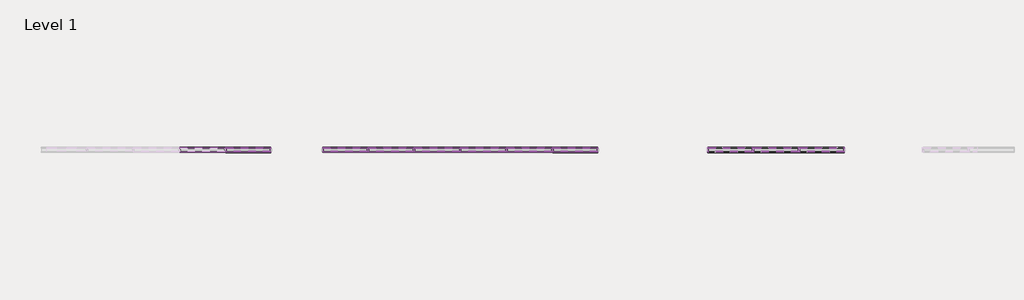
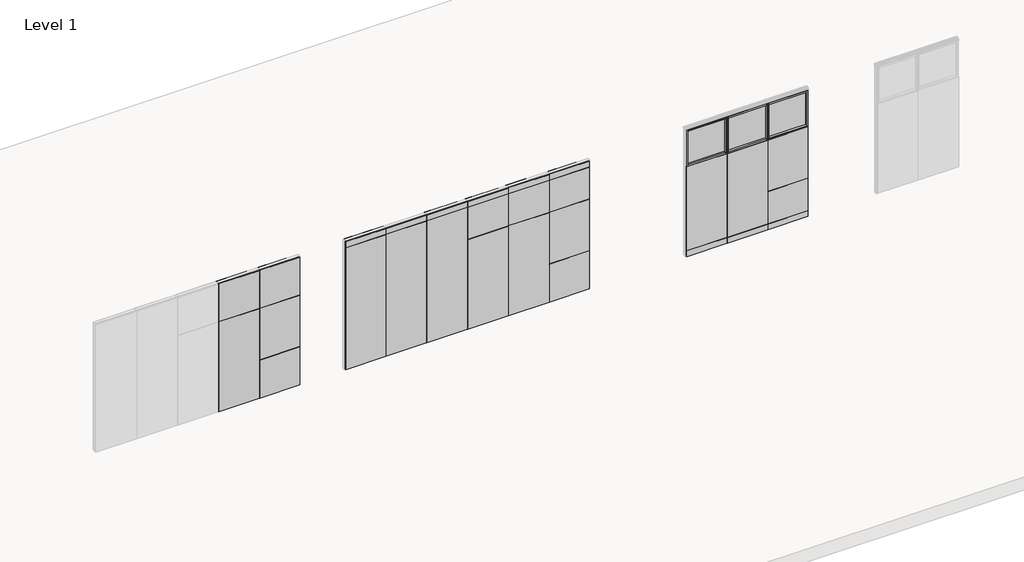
# One storey, part 16 of 22: 101 proxies.
"""IFC4 building model written with IfcOpenShell, lengths in millimetres."""

from ifc_helpers import new_model, si_unit, origin, place, context, project, spatial, transform, mapped, element, save
from components import specialty_equipment_a7725fb8, specialty_equipment_a37d2f72, fascia_teknion_ceiling_and_base_fpb1_53cd2d31, fascia_teknion_ceiling_and_base_fpb1_16c273a4, fascia_teknion_ceiling_and_base_fpb1_d476be8e, fascia_teknion_ceiling_and_base_fpb1_8e12d95e, fascia_teknion_ceiling_and_base_fpb1_b9f04170, fascia_teknion_ceiling_and_base_fpb1_0bfeef01, fascia_teknion_ceiling_and_base_fpb1_707b8d37, fascia_teknion_ceiling_and_base_fpb1_816009f4, frame_teknion_horizontal_rail_5872ae1a, frame_teknion_horizontal_rail_46ee653b, level_ii_d92933f0, level_ii_5838736d, level_ii_d9937d3a, level_ii_09c6d2e8, level_ii_766fe766, level_ii_d745e7d9, monolithic_level_i_8bdc6454, monolithic_level_i_0d422da3, monolithic_level_i_5bb2e6cc, panel_fascia_teknion_clerestory_base_fascia_level_i_78e5e170, panel_fascia_teknion_clerestory_base_fascia_level_i_735a874c, panel_fascia_teknion_clerestory_base_fascia_level_i_988903cc, panel_fascia_teknion_clerestory_base_fascia_level_ii_e9959047, panel_fascia_teknion_clerestory_base_fascia_level_ii_c53b4d47, panel_fascia_teknion_clerestory_base_fascia_level_ii_690aed16, panel_fascia_teknion_clerestory_base_fascia_segmented_level_73441add, panel_fascia_teknion_clerestory_base_fascia_segmented_level_e8cfd076, panel_fascia_teknion_clerestory_base_fascia_segmented_level_bd308c10, segmented_monolithic_level_i_26a9d159, segmented_monolithic_level_i_79c8b360, segmented_monolithic_level_i_954095a9, segmented_monolithic_level_ii_ef75357c, segmented_monolithic_level_ii_44e4ae8f, segmented_monolithic_level_ii_9478e5b5, working_wall_monolithic_level_i_759ace73, working_wall_monolithic_level_i_f3196e79, working_wall_monolithic_level_i_53c92298, working_wall_monolithic_level_i_9d4bea93, working_wall_monolithic_level_i_ddf61f7f, working_wall_monolithic_level_i_49ea217e, segmented_monolithic_level_ii_062cb124, working_wall_monolithic_level_iii_b79156b4, working_wall_monolithic_level_iii_e35548a4, working_wall_monolithic_level_iii_fa76c758, working_wall_monolithic_level_iii_031ea846

model = new_model("IFC4")

# Units and contexts
model_context = context("Model", 3, world=origin())
ifc_project = project(units=[si_unit("LENGTHUNIT", "METRE", prefix="MILLI")], contexts=[model_context])

# Site, building, storey
site = spatial("IfcSite", under=ifc_project)
building = spatial("IfcBuilding", under=site)
storey = spatial("IfcBuildingStorey", under=building, Name="Level 1", Elevation=0.0)

# Proxies
placement = place(None, origin())
specialty_equipment_shape = specialty_equipment_a7725fb8(model_context)
element("IfcBuildingElementProxy", 1, Name="Panel-Clerestory-Teknion-Optos-Altos_Monolithic_Fascias : FYCG", ObjectType="Panel-Clerestory-Teknion-Optos-Altos_Monolithic_Fascias : FYCG", at=placement, inside=storey, context=model_context, shape_type="MappedRepresentation", body=[
    mapped(specialty_equipment_shape, transform((72474.5023007, 1812.3522105, 2136.775), x_axis=(1.0, 0.0, 0.0), y_axis=(0.0, 1.0, 0.0), z_axis=(0.0, 0.0, 1.0))),
])
element("IfcBuildingElementProxy", 2, Name="Panel-Clerestory-Teknion-Optos-Altos_Monolithic_Fascias : FYCG", ObjectType="Panel-Clerestory-Teknion-Optos-Altos_Monolithic_Fascias : FYCG", at=placement, inside=storey, context=model_context, shape_type="MappedRepresentation", body=[
    mapped(specialty_equipment_shape, transform((74289.312457, 1812.3522105, 2136.775), x_axis=(1.0, 0.0, 0.0), y_axis=(0.0, 1.0, 0.0), z_axis=(0.0, 0.0, 1.0))),
])
specialty_equipment_2_shape = specialty_equipment_a37d2f72(model_context)
element("IfcBuildingElementProxy", 3, Name="Panel-Clerestory-Teknion-Optos-Altos_Monolithic_Fascias : FYCG", ObjectType="Panel-Clerestory-Teknion-Optos-Altos_Monolithic_Fascias : FYCG", at=placement, inside=storey, context=model_context, shape_type="MappedRepresentation", body=[
    mapped(specialty_equipment_2_shape, transform((73381.9073788, 1812.3522105, 2136.775), x_axis=(1.0, 0.0, 0.0), y_axis=(0.0, 1.0, 0.0), z_axis=(0.0, 0.0, 1.0))),
])
fascia_teknion_ceiling_and_base_fpb1_shape = fascia_teknion_ceiling_and_base_fpb1_53cd2d31(model_context)
element("IfcBuildingElementProxy", 4, Name="Fascia-Teknion-Ceiling_and_Base : FPB1", ObjectType="Fascia-Teknion-Ceiling_and_Base : FPB1", at=placement, inside=storey, context=model_context, shape_type="MappedRepresentation", body=[
    mapped(fascia_teknion_ceiling_and_base_fpb1_shape, transform((72474.5023007, 1781.3642105, 15.875), x_axis=(1.0, 0.0, 0.0), y_axis=(0.0, 1.0, 0.0), z_axis=(0.0, 0.0, 1.0))),
])
element("IfcBuildingElementProxy", 5, Name="Fascia-Teknion-Ceiling_and_Base : FPB1", ObjectType="Fascia-Teknion-Ceiling_and_Base : FPB1", at=placement, inside=storey, context=model_context, shape_type="MappedRepresentation", body=[
    mapped(fascia_teknion_ceiling_and_base_fpb1_shape, transform((74289.312457, 1781.3642105, 15.875), x_axis=(1.0, 0.0, 0.0), y_axis=(0.0, 1.0, 0.0), z_axis=(0.0, 0.0, 1.0))),
])
fascia_teknion_ceiling_and_base_fpb1_2_shape = fascia_teknion_ceiling_and_base_fpb1_16c273a4(model_context)
element("IfcBuildingElementProxy", 6, Name="Fascia-Teknion-Ceiling_and_Base : FPB1", ObjectType="Fascia-Teknion-Ceiling_and_Base : FPB1", at=placement, inside=storey, context=model_context, shape_type="MappedRepresentation", body=[
    mapped(fascia_teknion_ceiling_and_base_fpb1_2_shape, transform((72474.5023007, 1843.3402105, 15.875), x_axis=(1.0, 0.0, 0.0), y_axis=(0.0, 1.0, 0.0), z_axis=(0.0, 0.0, 1.0))),
])
element("IfcBuildingElementProxy", 7, Name="Fascia-Teknion-Ceiling_and_Base : FPB1", ObjectType="Fascia-Teknion-Ceiling_and_Base : FPB1", at=placement, inside=storey, context=model_context, shape_type="MappedRepresentation", body=[
    mapped(fascia_teknion_ceiling_and_base_fpb1_2_shape, transform((74289.312457, 1843.3402105, 15.875), x_axis=(1.0, 0.0, 0.0), y_axis=(0.0, 1.0, 0.0), z_axis=(0.0, 0.0, 1.0))),
])
fascia_teknion_ceiling_and_base_fpb1_3_shape = fascia_teknion_ceiling_and_base_fpb1_d476be8e(model_context)
element("IfcBuildingElementProxy", 8, Name="Fascia-Teknion-Ceiling_and_Base : FPB1", ObjectType="Fascia-Teknion-Ceiling_and_Base : FPB1", at=placement, inside=storey, context=model_context, shape_type="MappedRepresentation", body=[
    mapped(fascia_teknion_ceiling_and_base_fpb1_3_shape, transform((73381.9073788, 1781.3642105, 15.875), x_axis=(1.0, 0.0, 0.0), y_axis=(0.0, 1.0, 0.0), z_axis=(0.0, 0.0, 1.0))),
])
fascia_teknion_ceiling_and_base_fpb1_4_shape = fascia_teknion_ceiling_and_base_fpb1_8e12d95e(model_context)
element("IfcBuildingElementProxy", 9, Name="Fascia-Teknion-Ceiling_and_Base : FPB1", ObjectType="Fascia-Teknion-Ceiling_and_Base : FPB1", at=placement, inside=storey, context=model_context, shape_type="MappedRepresentation", body=[
    mapped(fascia_teknion_ceiling_and_base_fpb1_4_shape, transform((73381.9073788, 1843.3402105, 15.875), x_axis=(1.0, 0.0, 0.0), y_axis=(0.0, 1.0, 0.0), z_axis=(0.0, 0.0, 1.0))),
])
fascia_teknion_ceiling_and_base_fpb1_5_shape = fascia_teknion_ceiling_and_base_fpb1_b9f04170(model_context)
element("IfcBuildingElementProxy", 10, Name="Fascia-Teknion-Ceiling_and_Base : FPC", ObjectType="Fascia-Teknion-Ceiling_and_Base : FPC", at=placement, inside=storey, context=model_context, shape_type="MappedRepresentation", body=[
    mapped(fascia_teknion_ceiling_and_base_fpb1_5_shape, transform((64843.799497, 1781.3642105, 2900.045), x_axis=(1.0, 0.0, 0.0), y_axis=(0.0, 1.0, 0.0), z_axis=(0.0, 0.0, 1.0))),
])
element("IfcBuildingElementProxy", 11, Name="Fascia-Teknion-Ceiling_and_Base : FPC", ObjectType="Fascia-Teknion-Ceiling_and_Base : FPC", at=placement, inside=storey, context=model_context, shape_type="MappedRepresentation", body=[
    mapped(fascia_teknion_ceiling_and_base_fpb1_5_shape, transform((69401.8096533, 1781.3642105, 2900.045), x_axis=(1.0, 0.0, 0.0), y_axis=(0.0, 1.0, 0.0), z_axis=(0.0, 0.0, 1.0))),
])
fascia_teknion_ceiling_and_base_fpb1_6_shape = fascia_teknion_ceiling_and_base_fpb1_0bfeef01(model_context)
element("IfcBuildingElementProxy", 12, Name="Fascia-Teknion-Ceiling_and_Base : FPC", ObjectType="Fascia-Teknion-Ceiling_and_Base : FPC", at=placement, inside=storey, context=model_context, shape_type="MappedRepresentation", body=[
    mapped(fascia_teknion_ceiling_and_base_fpb1_6_shape, transform((64843.799497, 1843.3402105, 2900.045), x_axis=(1.0, 0.0, 0.0), y_axis=(0.0, 1.0, 0.0), z_axis=(0.0, 0.0, 1.0))),
])
element("IfcBuildingElementProxy", 13, Name="Fascia-Teknion-Ceiling_and_Base : FPC", ObjectType="Fascia-Teknion-Ceiling_and_Base : FPC", at=placement, inside=storey, context=model_context, shape_type="MappedRepresentation", body=[
    mapped(fascia_teknion_ceiling_and_base_fpb1_6_shape, transform((69401.8096533, 1843.3402105, 2900.045), x_axis=(1.0, 0.0, 0.0), y_axis=(0.0, 1.0, 0.0), z_axis=(0.0, 0.0, 1.0))),
])
fascia_teknion_ceiling_and_base_fpb1_7_shape = fascia_teknion_ceiling_and_base_fpb1_707b8d37(model_context)
element("IfcBuildingElementProxy", 14, Name="Fascia-Teknion-Ceiling_and_Base : FPC", ObjectType="Fascia-Teknion-Ceiling_and_Base : FPC", at=placement, inside=storey, context=model_context, shape_type="MappedRepresentation", body=[
    mapped(fascia_teknion_ceiling_and_base_fpb1_7_shape, transform((65751.2045751, 1781.3642105, 2900.045), x_axis=(1.0, 0.0, 0.0), y_axis=(0.0, 1.0, 0.0), z_axis=(0.0, 0.0, 1.0))),
])
element("IfcBuildingElementProxy", 15, Name="Fascia-Teknion-Ceiling_and_Base : FPC", ObjectType="Fascia-Teknion-Ceiling_and_Base : FPC", at=placement, inside=storey, context=model_context, shape_type="MappedRepresentation", body=[
    mapped(fascia_teknion_ceiling_and_base_fpb1_7_shape, transform((66665.6045751, 1781.3642105, 2900.045), x_axis=(1.0, 0.0, 0.0), y_axis=(0.0, 1.0, 0.0), z_axis=(0.0, 0.0, 1.0))),
])
element("IfcBuildingElementProxy", 16, Name="Fascia-Teknion-Ceiling_and_Base : FPC", ObjectType="Fascia-Teknion-Ceiling_and_Base : FPC", at=placement, inside=storey, context=model_context, shape_type="MappedRepresentation", body=[
    mapped(fascia_teknion_ceiling_and_base_fpb1_7_shape, transform((67580.0045751, 1781.3642105, 2900.045), x_axis=(1.0, 0.0, 0.0), y_axis=(0.0, 1.0, 0.0), z_axis=(0.0, 0.0, 1.0))),
])
element("IfcBuildingElementProxy", 17, Name="Fascia-Teknion-Ceiling_and_Base : FPC", ObjectType="Fascia-Teknion-Ceiling_and_Base : FPC", at=placement, inside=storey, context=model_context, shape_type="MappedRepresentation", body=[
    mapped(fascia_teknion_ceiling_and_base_fpb1_7_shape, transform((68494.4045751, 1781.3642105, 2900.045), x_axis=(1.0, 0.0, 0.0), y_axis=(0.0, 1.0, 0.0), z_axis=(0.0, 0.0, 1.0))),
])
fascia_teknion_ceiling_and_base_fpb1_8_shape = fascia_teknion_ceiling_and_base_fpb1_816009f4(model_context)
element("IfcBuildingElementProxy", 18, Name="Fascia-Teknion-Ceiling_and_Base : FPC", ObjectType="Fascia-Teknion-Ceiling_and_Base : FPC", at=placement, inside=storey, context=model_context, shape_type="MappedRepresentation", body=[
    mapped(fascia_teknion_ceiling_and_base_fpb1_8_shape, transform((65751.2045751, 1843.3402105, 2900.045), x_axis=(1.0, 0.0, 0.0), y_axis=(0.0, 1.0, 0.0), z_axis=(0.0, 0.0, 1.0))),
])
element("IfcBuildingElementProxy", 19, Name="Fascia-Teknion-Ceiling_and_Base : FPC", ObjectType="Fascia-Teknion-Ceiling_and_Base : FPC", at=placement, inside=storey, context=model_context, shape_type="MappedRepresentation", body=[
    mapped(fascia_teknion_ceiling_and_base_fpb1_8_shape, transform((67580.0045751, 1843.3402105, 2900.045), x_axis=(1.0, 0.0, 0.0), y_axis=(0.0, 1.0, 0.0), z_axis=(0.0, 0.0, 1.0))),
])
element("IfcBuildingElementProxy", 20, Name="Fascia-Teknion-Ceiling_and_Base : FPC", ObjectType="Fascia-Teknion-Ceiling_and_Base : FPC", at=placement, inside=storey, context=model_context, shape_type="MappedRepresentation", body=[
    mapped(fascia_teknion_ceiling_and_base_fpb1_8_shape, transform((66665.6045751, 1843.3402105, 2900.045), x_axis=(1.0, 0.0, 0.0), y_axis=(0.0, 1.0, 0.0), z_axis=(0.0, 0.0, 1.0))),
])
element("IfcBuildingElementProxy", 21, Name="Fascia-Teknion-Ceiling_and_Base : FPC", ObjectType="Fascia-Teknion-Ceiling_and_Base : FPC", at=placement, inside=storey, context=model_context, shape_type="MappedRepresentation", body=[
    mapped(fascia_teknion_ceiling_and_base_fpb1_8_shape, transform((68494.4045751, 1843.3402105, 2900.045), x_axis=(1.0, 0.0, 0.0), y_axis=(0.0, 1.0, 0.0), z_axis=(0.0, 0.0, 1.0))),
])
frame_teknion_horizontal_rail_shape = frame_teknion_horizontal_rail_5872ae1a(model_context)
element("IfcBuildingElementProxy", 22, Name="Frame-Teknion-Horizontal_Rail : FPKK", ObjectType="Frame-Teknion-Horizontal_Rail : FPKK", at=placement, inside=storey, context=model_context, shape_type="MappedRepresentation", body=[
    mapped(frame_teknion_horizontal_rail_shape, transform((64843.799497, 1812.3522105, 2898.3305), x_axis=(1.0, 0.0, 0.0), y_axis=(0.0, 1.0, 0.0), z_axis=(0.0, 0.0, 1.0))),
])
element("IfcBuildingElementProxy", 23, Name="Frame-Teknion-Horizontal_Rail : FPKK", ObjectType="Frame-Teknion-Horizontal_Rail : FPKK", at=placement, inside=storey, context=model_context, shape_type="MappedRepresentation", body=[
    mapped(frame_teknion_horizontal_rail_shape, transform((69401.8096533, 1812.3522105, 917.575), x_axis=(1.0, 0.0, 0.0), y_axis=(0.0, 1.0, 0.0), z_axis=(0.0, 0.0, 1.0))),
])
element("IfcBuildingElementProxy", 24, Name="Frame-Teknion-Horizontal_Rail : FPKK", ObjectType="Frame-Teknion-Horizontal_Rail : FPKK", at=placement, inside=storey, context=model_context, shape_type="MappedRepresentation", body=[
    mapped(frame_teknion_horizontal_rail_shape, transform((69401.8096533, 1812.3522105, 2898.3305), x_axis=(1.0, 0.0, 0.0), y_axis=(0.0, 1.0, 0.0), z_axis=(0.0, 0.0, 1.0))),
])
element("IfcBuildingElementProxy", 25, Name="Frame-Teknion-Horizontal_Rail : FPKK", ObjectType="Frame-Teknion-Horizontal_Rail : FPKK", at=placement, inside=storey, context=model_context, shape_type="MappedRepresentation", body=[
    mapped(frame_teknion_horizontal_rail_shape, transform((69401.8096533, 1812.3522105, 2136.775), x_axis=(1.0, 0.0, 0.0), y_axis=(0.0, 1.0, 0.0), z_axis=(0.0, 0.0, 1.0))),
])
element("IfcBuildingElementProxy", 26, Name="Frame-Teknion-Horizontal_Rail : FPKK", ObjectType="Frame-Teknion-Horizontal_Rail : FPKK", at=placement, inside=storey, context=model_context, shape_type="MappedRepresentation", body=[
    mapped(frame_teknion_horizontal_rail_shape, transform((64843.799497, 1812.3522105, 151.257), x_axis=(1.0, 0.0, 0.0), y_axis=(0.0, 1.0, 0.0), z_axis=(0.0, 0.0, 1.0))),
])
element("IfcBuildingElementProxy", 27, Name="Frame-Teknion-Horizontal_Rail : FPKK", ObjectType="Frame-Teknion-Horizontal_Rail : FPKK", at=placement, inside=storey, context=model_context, shape_type="MappedRepresentation", body=[
    mapped(frame_teknion_horizontal_rail_shape, transform((69401.8096533, 1812.3522105, 151.257), x_axis=(1.0, 0.0, 0.0), y_axis=(0.0, 1.0, 0.0), z_axis=(0.0, 0.0, 1.0))),
])
element("IfcBuildingElementProxy", 28, Name="Frame-Teknion-Horizontal_Rail : FPKK", ObjectType="Frame-Teknion-Horizontal_Rail : FPKK", at=placement, inside=storey, context=model_context, shape_type="MappedRepresentation", body=[
    mapped(frame_teknion_horizontal_rail_shape, transform((62920.0742944, 1812.3522105, 151.257), x_axis=(1.0, 0.0, 0.0), y_axis=(0.0, 1.0, 0.0), z_axis=(0.0, 0.0, 1.0))),
])
element("IfcBuildingElementProxy", 29, Name="Frame-Teknion-Horizontal_Rail : FPKK", ObjectType="Frame-Teknion-Horizontal_Rail : FPKK", at=placement, inside=storey, context=model_context, shape_type="MappedRepresentation", body=[
    mapped(frame_teknion_horizontal_rail_shape, transform((62920.0742944, 1812.3522105, 2898.3305), x_axis=(1.0, 0.0, 0.0), y_axis=(0.0, 1.0, 0.0), z_axis=(0.0, 0.0, 1.0))),
])
element("IfcBuildingElementProxy", 30, Name="Frame-Teknion-Horizontal_Rail : FPKK", ObjectType="Frame-Teknion-Horizontal_Rail : FPKK", at=placement, inside=storey, context=model_context, shape_type="MappedRepresentation", body=[
    mapped(frame_teknion_horizontal_rail_shape, transform((62920.0742944, 1812.3522105, 917.575), x_axis=(1.0, 0.0, 0.0), y_axis=(0.0, 1.0, 0.0), z_axis=(0.0, 0.0, 1.0))),
])
element("IfcBuildingElementProxy", 31, Name="Frame-Teknion-Horizontal_Rail : FPKK", ObjectType="Frame-Teknion-Horizontal_Rail : FPKK", at=placement, inside=storey, context=model_context, shape_type="MappedRepresentation", body=[
    mapped(frame_teknion_horizontal_rail_shape, transform((72474.5023007, 1812.3522105, 2136.775), x_axis=(1.0, 0.0, 0.0), y_axis=(0.0, 1.0, 0.0), z_axis=(0.0, 0.0, 1.0))),
])
element("IfcBuildingElementProxy", 32, Name="Frame-Teknion-Horizontal_Rail : FPKK", ObjectType="Frame-Teknion-Horizontal_Rail : FPKK", at=placement, inside=storey, context=model_context, shape_type="MappedRepresentation", body=[
    mapped(frame_teknion_horizontal_rail_shape, transform((72474.5023007, 1812.3522105, 151.257), x_axis=(1.0, 0.0, 0.0), y_axis=(0.0, 1.0, 0.0), z_axis=(0.0, 0.0, 1.0))),
])
element("IfcBuildingElementProxy", 33, Name="Frame-Teknion-Horizontal_Rail : FPKK", ObjectType="Frame-Teknion-Horizontal_Rail : FPKK", at=placement, inside=storey, context=model_context, shape_type="MappedRepresentation", body=[
    mapped(frame_teknion_horizontal_rail_shape, transform((74289.312457, 1812.3522105, 2136.775), x_axis=(1.0, 0.0, 0.0), y_axis=(0.0, 1.0, 0.0), z_axis=(0.0, 0.0, 1.0))),
])
element("IfcBuildingElementProxy", 34, Name="Frame-Teknion-Horizontal_Rail : FPKK", ObjectType="Frame-Teknion-Horizontal_Rail : FPKK", at=placement, inside=storey, context=model_context, shape_type="MappedRepresentation", body=[
    mapped(frame_teknion_horizontal_rail_shape, transform((74289.312457, 1812.3522105, 151.257), x_axis=(1.0, 0.0, 0.0), y_axis=(0.0, 1.0, 0.0), z_axis=(0.0, 0.0, 1.0))),
])
element("IfcBuildingElementProxy", 35, Name="Frame-Teknion-Horizontal_Rail : FPKK", ObjectType="Frame-Teknion-Horizontal_Rail : FPKK", at=placement, inside=storey, context=model_context, shape_type="MappedRepresentation", body=[
    mapped(frame_teknion_horizontal_rail_shape, transform((74289.312457, 1812.3522105, 917.575), x_axis=(1.0, 0.0, 0.0), y_axis=(0.0, 1.0, 0.0), z_axis=(0.0, 0.0, 1.0))),
])
element("IfcBuildingElementProxy", 36, Name="Frame-Teknion-Horizontal_Rail : FPKK", ObjectType="Frame-Teknion-Horizontal_Rail : FPKK", at=placement, inside=storey, context=model_context, shape_type="MappedRepresentation", body=[
    mapped(frame_teknion_horizontal_rail_shape, transform((72474.5023007, 1812.3522105, 100.3935), x_axis=(1.0, 0.0, 0.0), y_axis=(0.0, 1.0, 0.0), z_axis=(0.0, 0.0, 1.0))),
])
element("IfcBuildingElementProxy", 37, Name="Frame-Teknion-Horizontal_Rail : FPKK", ObjectType="Frame-Teknion-Horizontal_Rail : FPKK", at=placement, inside=storey, context=model_context, shape_type="MappedRepresentation", body=[
    mapped(frame_teknion_horizontal_rail_shape, transform((74289.312457, 1812.3522105, 100.3935), x_axis=(1.0, 0.0, 0.0), y_axis=(0.0, 1.0, 0.0), z_axis=(0.0, 0.0, 1.0))),
])
frame_teknion_horizontal_rail_2_shape = frame_teknion_horizontal_rail_46ee653b(model_context)
element("IfcBuildingElementProxy", 38, Name="Frame-Teknion-Horizontal_Rail : FPKK", ObjectType="Frame-Teknion-Horizontal_Rail : FPKK", at=placement, inside=storey, context=model_context, shape_type="MappedRepresentation", body=[
    mapped(frame_teknion_horizontal_rail_2_shape, transform((65751.2045751, 1812.3522105, 917.575), x_axis=(1.0, 0.0, 0.0), y_axis=(0.0, 1.0, 0.0), z_axis=(0.0, 0.0, 1.0))),
])
element("IfcBuildingElementProxy", 39, Name="Frame-Teknion-Horizontal_Rail : FPKK", ObjectType="Frame-Teknion-Horizontal_Rail : FPKK", at=placement, inside=storey, context=model_context, shape_type="MappedRepresentation", body=[
    mapped(frame_teknion_horizontal_rail_2_shape, transform((65751.2045751, 1812.3522105, 2898.3305), x_axis=(1.0, 0.0, 0.0), y_axis=(0.0, 1.0, 0.0), z_axis=(0.0, 0.0, 1.0))),
])
element("IfcBuildingElementProxy", 40, Name="Frame-Teknion-Horizontal_Rail : FPKK", ObjectType="Frame-Teknion-Horizontal_Rail : FPKK", at=placement, inside=storey, context=model_context, shape_type="MappedRepresentation", body=[
    mapped(frame_teknion_horizontal_rail_2_shape, transform((66665.6045751, 1812.3522105, 917.575), x_axis=(1.0, 0.0, 0.0), y_axis=(0.0, 1.0, 0.0), z_axis=(0.0, 0.0, 1.0))),
])
element("IfcBuildingElementProxy", 41, Name="Frame-Teknion-Horizontal_Rail : FPKK", ObjectType="Frame-Teknion-Horizontal_Rail : FPKK", at=placement, inside=storey, context=model_context, shape_type="MappedRepresentation", body=[
    mapped(frame_teknion_horizontal_rail_2_shape, transform((66665.6045751, 1812.3522105, 2898.3305), x_axis=(1.0, 0.0, 0.0), y_axis=(0.0, 1.0, 0.0), z_axis=(0.0, 0.0, 1.0))),
])
element("IfcBuildingElementProxy", 42, Name="Frame-Teknion-Horizontal_Rail : FPKK", ObjectType="Frame-Teknion-Horizontal_Rail : FPKK", at=placement, inside=storey, context=model_context, shape_type="MappedRepresentation", body=[
    mapped(frame_teknion_horizontal_rail_2_shape, transform((67580.0045751, 1812.3522105, 2898.3305), x_axis=(1.0, 0.0, 0.0), y_axis=(0.0, 1.0, 0.0), z_axis=(0.0, 0.0, 1.0))),
])
element("IfcBuildingElementProxy", 43, Name="Frame-Teknion-Horizontal_Rail : FPKK", ObjectType="Frame-Teknion-Horizontal_Rail : FPKK", at=placement, inside=storey, context=model_context, shape_type="MappedRepresentation", body=[
    mapped(frame_teknion_horizontal_rail_2_shape, transform((68494.4045751, 1812.3522105, 2898.3305), x_axis=(1.0, 0.0, 0.0), y_axis=(0.0, 1.0, 0.0), z_axis=(0.0, 0.0, 1.0))),
])
element("IfcBuildingElementProxy", 44, Name="Frame-Teknion-Horizontal_Rail : FPKK", ObjectType="Frame-Teknion-Horizontal_Rail : FPKK", at=placement, inside=storey, context=model_context, shape_type="MappedRepresentation", body=[
    mapped(frame_teknion_horizontal_rail_2_shape, transform((67580.0045751, 1812.3522105, 2136.775), x_axis=(1.0, 0.0, 0.0), y_axis=(0.0, 1.0, 0.0), z_axis=(0.0, 0.0, 1.0))),
])
element("IfcBuildingElementProxy", 45, Name="Frame-Teknion-Horizontal_Rail : FPKK", ObjectType="Frame-Teknion-Horizontal_Rail : FPKK", at=placement, inside=storey, context=model_context, shape_type="MappedRepresentation", body=[
    mapped(frame_teknion_horizontal_rail_2_shape, transform((68494.4045751, 1812.3522105, 2136.775), x_axis=(1.0, 0.0, 0.0), y_axis=(0.0, 1.0, 0.0), z_axis=(0.0, 0.0, 1.0))),
])
element("IfcBuildingElementProxy", 46, Name="Frame-Teknion-Horizontal_Rail : FPKK", ObjectType="Frame-Teknion-Horizontal_Rail : FPKK", at=placement, inside=storey, context=model_context, shape_type="MappedRepresentation", body=[
    mapped(frame_teknion_horizontal_rail_2_shape, transform((65751.2045751, 1812.3522105, 2136.775), x_axis=(1.0, 0.0, 0.0), y_axis=(0.0, 1.0, 0.0), z_axis=(0.0, 0.0, 1.0))),
])
element("IfcBuildingElementProxy", 47, Name="Frame-Teknion-Horizontal_Rail : FPKK", ObjectType="Frame-Teknion-Horizontal_Rail : FPKK", at=placement, inside=storey, context=model_context, shape_type="MappedRepresentation", body=[
    mapped(frame_teknion_horizontal_rail_2_shape, transform((65751.2045751, 1812.3522105, 151.257), x_axis=(1.0, 0.0, 0.0), y_axis=(0.0, 1.0, 0.0), z_axis=(0.0, 0.0, 1.0))),
])
element("IfcBuildingElementProxy", 48, Name="Frame-Teknion-Horizontal_Rail : FPKK", ObjectType="Frame-Teknion-Horizontal_Rail : FPKK", at=placement, inside=storey, context=model_context, shape_type="MappedRepresentation", body=[
    mapped(frame_teknion_horizontal_rail_2_shape, transform((66665.6045751, 1812.3522105, 2136.775), x_axis=(1.0, 0.0, 0.0), y_axis=(0.0, 1.0, 0.0), z_axis=(0.0, 0.0, 1.0))),
])
element("IfcBuildingElementProxy", 49, Name="Frame-Teknion-Horizontal_Rail : FPKK", ObjectType="Frame-Teknion-Horizontal_Rail : FPKK", at=placement, inside=storey, context=model_context, shape_type="MappedRepresentation", body=[
    mapped(frame_teknion_horizontal_rail_2_shape, transform((66665.6045751, 1812.3522105, 151.257), x_axis=(1.0, 0.0, 0.0), y_axis=(0.0, 1.0, 0.0), z_axis=(0.0, 0.0, 1.0))),
])
element("IfcBuildingElementProxy", 50, Name="Frame-Teknion-Horizontal_Rail : FPKK", ObjectType="Frame-Teknion-Horizontal_Rail : FPKK", at=placement, inside=storey, context=model_context, shape_type="MappedRepresentation", body=[
    mapped(frame_teknion_horizontal_rail_2_shape, transform((67580.0045751, 1812.3522105, 151.257), x_axis=(1.0, 0.0, 0.0), y_axis=(0.0, 1.0, 0.0), z_axis=(0.0, 0.0, 1.0))),
])
element("IfcBuildingElementProxy", 51, Name="Frame-Teknion-Horizontal_Rail : FPKK", ObjectType="Frame-Teknion-Horizontal_Rail : FPKK", at=placement, inside=storey, context=model_context, shape_type="MappedRepresentation", body=[
    mapped(frame_teknion_horizontal_rail_2_shape, transform((68494.4045751, 1812.3522105, 151.257), x_axis=(1.0, 0.0, 0.0), y_axis=(0.0, 1.0, 0.0), z_axis=(0.0, 0.0, 1.0))),
])
element("IfcBuildingElementProxy", 52, Name="Frame-Teknion-Horizontal_Rail : FPKK", ObjectType="Frame-Teknion-Horizontal_Rail : FPKK", at=placement, inside=storey, context=model_context, shape_type="MappedRepresentation", body=[
    mapped(frame_teknion_horizontal_rail_2_shape, transform((68494.4045751, 1812.3522105, 917.575), x_axis=(1.0, 0.0, 0.0), y_axis=(0.0, 1.0, 0.0), z_axis=(0.0, 0.0, 1.0))),
])
element("IfcBuildingElementProxy", 53, Name="Frame-Teknion-Horizontal_Rail : FPKK", ObjectType="Frame-Teknion-Horizontal_Rail : FPKK", at=placement, inside=storey, context=model_context, shape_type="MappedRepresentation", body=[
    mapped(frame_teknion_horizontal_rail_2_shape, transform((62012.6692163, 1812.3522105, 917.575), x_axis=(1.0, 0.0, 0.0), y_axis=(0.0, 1.0, 0.0), z_axis=(0.0, 0.0, 1.0))),
])
element("IfcBuildingElementProxy", 54, Name="Frame-Teknion-Horizontal_Rail : FPKK", ObjectType="Frame-Teknion-Horizontal_Rail : FPKK", at=placement, inside=storey, context=model_context, shape_type="MappedRepresentation", body=[
    mapped(frame_teknion_horizontal_rail_2_shape, transform((73381.9073788, 1812.3522105, 2136.775), x_axis=(1.0, 0.0, 0.0), y_axis=(0.0, 1.0, 0.0), z_axis=(0.0, 0.0, 1.0))),
])
element("IfcBuildingElementProxy", 55, Name="Frame-Teknion-Horizontal_Rail : FPKK", ObjectType="Frame-Teknion-Horizontal_Rail : FPKK", at=placement, inside=storey, context=model_context, shape_type="MappedRepresentation", body=[
    mapped(frame_teknion_horizontal_rail_2_shape, transform((73381.9073788, 1812.3522105, 151.257), x_axis=(1.0, 0.0, 0.0), y_axis=(0.0, 1.0, 0.0), z_axis=(0.0, 0.0, 1.0))),
])
element("IfcBuildingElementProxy", 56, Name="Frame-Teknion-Horizontal_Rail : FPKK", ObjectType="Frame-Teknion-Horizontal_Rail : FPKK", at=placement, inside=storey, context=model_context, shape_type="MappedRepresentation", body=[
    mapped(frame_teknion_horizontal_rail_2_shape, transform((73381.9073788, 1812.3522105, 917.575), x_axis=(1.0, 0.0, 0.0), y_axis=(0.0, 1.0, 0.0), z_axis=(0.0, 0.0, 1.0))),
])
element("IfcBuildingElementProxy", 57, Name="Frame-Teknion-Horizontal_Rail : FPKK", ObjectType="Frame-Teknion-Horizontal_Rail : FPKK", at=placement, inside=storey, context=model_context, shape_type="MappedRepresentation", body=[
    mapped(frame_teknion_horizontal_rail_2_shape, transform((73381.9073788, 1812.3522105, 100.3935), x_axis=(1.0, 0.0, 0.0), y_axis=(0.0, 1.0, 0.0), z_axis=(0.0, 0.0, 1.0))),
])
level_ii_shape = level_ii_d92933f0(model_context)
element("IfcBuildingElementProxy", 58, Name="Panel-Fascia-Teknion-Altos-Standard : Level II", ObjectType="Panel-Fascia-Teknion-Altos-Standard : Level II", at=placement, inside=storey, context=model_context, shape_type="MappedRepresentation", body=[
    mapped(level_ii_shape, transform((62920.0742944, 1852.8652105, 917.575), x_axis=(1.0, 0.0, 0.0), y_axis=(0.0, 1.0, 0.0), z_axis=(0.0, 0.0, 1.0))),
])
level_ii_2_shape = level_ii_5838736d(model_context)
element("IfcBuildingElementProxy", 59, Name="Panel-Fascia-Teknion-Altos-Standard : Level II", ObjectType="Panel-Fascia-Teknion-Altos-Standard : Level II", at=placement, inside=storey, context=model_context, shape_type="MappedRepresentation", body=[
    mapped(level_ii_2_shape, transform((62012.6692163, 1852.8652105, 917.575), x_axis=(1.0, 0.0, 0.0), y_axis=(0.0, 1.0, 0.0), z_axis=(0.0, 0.0, 1.0))),
])
level_ii_3_shape = level_ii_d9937d3a(model_context)
element("IfcBuildingElementProxy", 60, Name="Panel-Fascia-Teknion-Altos-Standard : Level II", ObjectType="Panel-Fascia-Teknion-Altos-Standard : Level II", at=placement, inside=storey, context=model_context, shape_type="MappedRepresentation", body=[
    mapped(level_ii_3_shape, transform((62920.0742944, 1771.8392105, 917.575), x_axis=(1.0, 0.0, 0.0), y_axis=(0.0, 1.0, 0.0), z_axis=(0.0, 0.0, 1.0))),
])
level_ii_4_shape = level_ii_09c6d2e8(model_context)
element("IfcBuildingElementProxy", 61, Name="Panel-Fascia-Teknion-Altos-Standard : Level II", ObjectType="Panel-Fascia-Teknion-Altos-Standard : Level II", at=placement, inside=storey, context=model_context, shape_type="MappedRepresentation", body=[
    mapped(level_ii_4_shape, transform((66665.6045751, 1852.8652105, 917.575), x_axis=(1.0, 0.0, 0.0), y_axis=(0.0, 1.0, 0.0), z_axis=(0.0, 0.0, 1.0))),
])
element("IfcBuildingElementProxy", 62, Name="Panel-Fascia-Teknion-Altos-Standard : Level II", ObjectType="Panel-Fascia-Teknion-Altos-Standard : Level II", at=placement, inside=storey, context=model_context, shape_type="MappedRepresentation", body=[
    mapped(level_ii_4_shape, transform((68494.4045751, 1852.8652105, 917.575), x_axis=(1.0, 0.0, 0.0), y_axis=(0.0, 1.0, 0.0), z_axis=(0.0, 0.0, 1.0))),
])
level_ii_5_shape = level_ii_766fe766(model_context)
element("IfcBuildingElementProxy", 63, Name="Panel-Fascia-Teknion-Altos-Standard : Level II", ObjectType="Panel-Fascia-Teknion-Altos-Standard : Level II", at=placement, inside=storey, context=model_context, shape_type="MappedRepresentation", body=[
    mapped(level_ii_5_shape, transform((69401.8096533, 1771.8392105, 917.575), x_axis=(1.0, 0.0, 0.0), y_axis=(0.0, 1.0, 0.0), z_axis=(0.0, 0.0, 1.0))),
])
level_ii_6_shape = level_ii_d745e7d9(model_context)
element("IfcBuildingElementProxy", 64, Name="Panel-Fascia-Teknion-Altos-Standard : Level II", ObjectType="Panel-Fascia-Teknion-Altos-Standard : Level II", at=placement, inside=storey, context=model_context, shape_type="MappedRepresentation", body=[
    mapped(level_ii_6_shape, transform((69401.8096533, 1852.8652105, 917.575), x_axis=(1.0, 0.0, 0.0), y_axis=(0.0, 1.0, 0.0), z_axis=(0.0, 0.0, 1.0))),
])
monolithic_level_i_shape = monolithic_level_i_8bdc6454(model_context)
element("IfcBuildingElementProxy", 65, Name="Panel-Fascia-Teknion-Altos-Standard : Monolithic Level I", ObjectType="Panel-Fascia-Teknion-Altos-Standard : Monolithic Level I", at=placement, inside=storey, context=model_context, shape_type="MappedRepresentation", body=[
    mapped(monolithic_level_i_shape, transform((64843.799497, 1771.8392105, 12.7), x_axis=(1.0, 0.0, 0.0), y_axis=(0.0, 1.0, 0.0), z_axis=(0.0, 0.0, 1.0))),
])
monolithic_level_i_2_shape = monolithic_level_i_0d422da3(model_context)
element("IfcBuildingElementProxy", 66, Name="Panel-Fascia-Teknion-Altos-Standard : Monolithic Level I", ObjectType="Panel-Fascia-Teknion-Altos-Standard : Monolithic Level I", at=placement, inside=storey, context=model_context, shape_type="MappedRepresentation", body=[
    mapped(monolithic_level_i_2_shape, transform((64843.799497, 1852.8652105, 12.7), x_axis=(1.0, 0.0, 0.0), y_axis=(0.0, 1.0, 0.0), z_axis=(0.0, 0.0, 1.0))),
])
monolithic_level_i_3_shape = monolithic_level_i_5bb2e6cc(model_context)
element("IfcBuildingElementProxy", 67, Name="Panel-Fascia-Teknion-Altos-Standard : Monolithic Level I", ObjectType="Panel-Fascia-Teknion-Altos-Standard : Monolithic Level I", at=placement, inside=storey, context=model_context, shape_type="MappedRepresentation", body=[
    mapped(monolithic_level_i_3_shape, transform((65751.2045751, 1771.8392105, 12.7), x_axis=(1.0, 0.0, 0.0), y_axis=(0.0, 1.0, 0.0), z_axis=(0.0, 0.0, 1.0))),
])
element("IfcBuildingElementProxy", 68, Name="Panel-Fascia-Teknion-Altos-Standard : Monolithic Level I", ObjectType="Panel-Fascia-Teknion-Altos-Standard : Monolithic Level I", at=placement, inside=storey, context=model_context, shape_type="MappedRepresentation", body=[
    mapped(monolithic_level_i_3_shape, transform((66665.6045751, 1771.8392105, 12.7), x_axis=(1.0, 0.0, 0.0), y_axis=(0.0, 1.0, 0.0), z_axis=(0.0, 0.0, 1.0))),
])
panel_fascia_teknion_clerestory_base_fascia_level_i_shape = panel_fascia_teknion_clerestory_base_fascia_level_i_78e5e170(model_context)
element("IfcBuildingElementProxy", 69, Name="Panel-Fascia-Teknion-Clerestory_Base_Fascia : Level I", ObjectType="Panel-Fascia-Teknion-Clerestory_Base_Fascia : Level I", at=placement, inside=storey, context=model_context, shape_type="MappedRepresentation", body=[
    mapped(panel_fascia_teknion_clerestory_base_fascia_level_i_shape, transform((73381.9073788, 1852.8652105, 100.457), x_axis=(1.0, 0.0, 0.0), y_axis=(0.0, 1.0, 0.0), z_axis=(0.0, 0.0, 1.0))),
])
panel_fascia_teknion_clerestory_base_fascia_level_i_2_shape = panel_fascia_teknion_clerestory_base_fascia_level_i_735a874c(model_context)
element("IfcBuildingElementProxy", 70, Name="Panel-Fascia-Teknion-Clerestory_Base_Fascia : Level I", ObjectType="Panel-Fascia-Teknion-Clerestory_Base_Fascia : Level I", at=placement, inside=storey, context=model_context, shape_type="MappedRepresentation", body=[
    mapped(panel_fascia_teknion_clerestory_base_fascia_level_i_2_shape, transform((74289.312457, 1771.8392105, 151.257), x_axis=(1.0, 0.0, 0.0), y_axis=(0.0, 1.0, 0.0), z_axis=(0.0, 0.0, 1.0))),
])
panel_fascia_teknion_clerestory_base_fascia_level_i_3_shape = panel_fascia_teknion_clerestory_base_fascia_level_i_988903cc(model_context)
element("IfcBuildingElementProxy", 71, Name="Panel-Fascia-Teknion-Clerestory_Base_Fascia : Level I", ObjectType="Panel-Fascia-Teknion-Clerestory_Base_Fascia : Level I", at=placement, inside=storey, context=model_context, shape_type="MappedRepresentation", body=[
    mapped(panel_fascia_teknion_clerestory_base_fascia_level_i_3_shape, transform((74289.312457, 1852.8652105, 100.457), x_axis=(1.0, 0.0, 0.0), y_axis=(0.0, 1.0, 0.0), z_axis=(0.0, 0.0, 1.0))),
])
panel_fascia_teknion_clerestory_base_fascia_level_ii_shape = panel_fascia_teknion_clerestory_base_fascia_level_ii_e9959047(model_context)
element("IfcBuildingElementProxy", 72, Name="Panel-Fascia-Teknion-Clerestory_Base_Fascia : Level II", ObjectType="Panel-Fascia-Teknion-Clerestory_Base_Fascia : Level II", at=placement, inside=storey, context=model_context, shape_type="MappedRepresentation", body=[
    mapped(panel_fascia_teknion_clerestory_base_fascia_level_ii_shape, transform((73381.9073788, 1852.8652105, 917.575), x_axis=(1.0, 0.0, 0.0), y_axis=(0.0, 1.0, 0.0), z_axis=(0.0, 0.0, 1.0))),
])
panel_fascia_teknion_clerestory_base_fascia_level_ii_2_shape = panel_fascia_teknion_clerestory_base_fascia_level_ii_c53b4d47(model_context)
element("IfcBuildingElementProxy", 73, Name="Panel-Fascia-Teknion-Clerestory_Base_Fascia : Level II", ObjectType="Panel-Fascia-Teknion-Clerestory_Base_Fascia : Level II", at=placement, inside=storey, context=model_context, shape_type="MappedRepresentation", body=[
    mapped(panel_fascia_teknion_clerestory_base_fascia_level_ii_2_shape, transform((74289.312457, 1771.8392105, 917.575), x_axis=(1.0, 0.0, 0.0), y_axis=(0.0, 1.0, 0.0), z_axis=(0.0, 0.0, 1.0))),
])
panel_fascia_teknion_clerestory_base_fascia_level_ii_3_shape = panel_fascia_teknion_clerestory_base_fascia_level_ii_690aed16(model_context)
element("IfcBuildingElementProxy", 74, Name="Panel-Fascia-Teknion-Clerestory_Base_Fascia : Level II", ObjectType="Panel-Fascia-Teknion-Clerestory_Base_Fascia : Level II", at=placement, inside=storey, context=model_context, shape_type="MappedRepresentation", body=[
    mapped(panel_fascia_teknion_clerestory_base_fascia_level_ii_3_shape, transform((74289.312457, 1852.8652105, 917.575), x_axis=(1.0, 0.0, 0.0), y_axis=(0.0, 1.0, 0.0), z_axis=(0.0, 0.0, 1.0))),
])
panel_fascia_teknion_clerestory_base_fascia_segmented_level_shape = panel_fascia_teknion_clerestory_base_fascia_segmented_level_73441add(model_context)
element("IfcBuildingElementProxy", 75, Name="Panel-Fascia-Teknion-Clerestory_Base_Fascia : Segmented Level I", ObjectType="Panel-Fascia-Teknion-Clerestory_Base_Fascia : Segmented Level I", at=placement, inside=storey, context=model_context, shape_type="MappedRepresentation", body=[
    mapped(panel_fascia_teknion_clerestory_base_fascia_segmented_level_shape, transform((72474.5023007, 1771.8392105, 151.257), x_axis=(1.0, 0.0, 0.0), y_axis=(0.0, 1.0, 0.0), z_axis=(0.0, 0.0, 1.0))),
])
panel_fascia_teknion_clerestory_base_fascia_segmented_level_2_shape = panel_fascia_teknion_clerestory_base_fascia_segmented_level_e8cfd076(model_context)
element("IfcBuildingElementProxy", 76, Name="Panel-Fascia-Teknion-Clerestory_Base_Fascia : Segmented Level I", ObjectType="Panel-Fascia-Teknion-Clerestory_Base_Fascia : Segmented Level I", at=placement, inside=storey, context=model_context, shape_type="MappedRepresentation", body=[
    mapped(panel_fascia_teknion_clerestory_base_fascia_segmented_level_2_shape, transform((72474.5023007, 1852.8652105, 100.457), x_axis=(1.0, 0.0, 0.0), y_axis=(0.0, 1.0, 0.0), z_axis=(0.0, 0.0, 1.0))),
])
panel_fascia_teknion_clerestory_base_fascia_segmented_level_3_shape = panel_fascia_teknion_clerestory_base_fascia_segmented_level_bd308c10(model_context)
element("IfcBuildingElementProxy", 77, Name="Panel-Fascia-Teknion-Clerestory_Base_Fascia : Segmented Level I", ObjectType="Panel-Fascia-Teknion-Clerestory_Base_Fascia : Segmented Level I", at=placement, inside=storey, context=model_context, shape_type="MappedRepresentation", body=[
    mapped(panel_fascia_teknion_clerestory_base_fascia_segmented_level_3_shape, transform((73381.9073788, 1771.8392105, 151.257), x_axis=(1.0, 0.0, 0.0), y_axis=(0.0, 1.0, 0.0), z_axis=(0.0, 0.0, 1.0))),
])
segmented_monolithic_level_i_shape = segmented_monolithic_level_i_26a9d159(model_context)
element("IfcBuildingElementProxy", 78, Name="Panel-Fascia-Teknion-Altos-Standard : Segmented Monolithic Level I", ObjectType="Panel-Fascia-Teknion-Altos-Standard : Segmented Monolithic Level I", at=placement, inside=storey, context=model_context, shape_type="MappedRepresentation", body=[
    mapped(segmented_monolithic_level_i_shape, transform((62012.6692163, 1771.8392105, 12.7), x_axis=(1.0, 0.0, 0.0), y_axis=(0.0, 1.0, 0.0), z_axis=(0.0, 0.0, 1.0))),
])
segmented_monolithic_level_i_2_shape = segmented_monolithic_level_i_79c8b360(model_context)
element("IfcBuildingElementProxy", 79, Name="Panel-Fascia-Teknion-Altos-Standard : Segmented Monolithic Level I", ObjectType="Panel-Fascia-Teknion-Altos-Standard : Segmented Monolithic Level I", at=placement, inside=storey, context=model_context, shape_type="MappedRepresentation", body=[
    mapped(segmented_monolithic_level_i_2_shape, transform((65751.2045751, 1852.8652105, 12.7), x_axis=(1.0, 0.0, 0.0), y_axis=(0.0, 1.0, 0.0), z_axis=(0.0, 0.0, 1.0))),
])
element("IfcBuildingElementProxy", 80, Name="Panel-Fascia-Teknion-Altos-Standard : Segmented Monolithic Level I", ObjectType="Panel-Fascia-Teknion-Altos-Standard : Segmented Monolithic Level I", at=placement, inside=storey, context=model_context, shape_type="MappedRepresentation", body=[
    mapped(segmented_monolithic_level_i_2_shape, transform((67580.0045751, 1852.8652105, 12.7), x_axis=(1.0, 0.0, 0.0), y_axis=(0.0, 1.0, 0.0), z_axis=(0.0, 0.0, 1.0))),
])
segmented_monolithic_level_i_3_shape = segmented_monolithic_level_i_954095a9(model_context)
element("IfcBuildingElementProxy", 81, Name="Panel-Fascia-Teknion-Altos-Standard : Segmented Monolithic Level I", ObjectType="Panel-Fascia-Teknion-Altos-Standard : Segmented Monolithic Level I", at=placement, inside=storey, context=model_context, shape_type="MappedRepresentation", body=[
    mapped(segmented_monolithic_level_i_3_shape, transform((67580.0045751, 1771.8392105, 12.7), x_axis=(1.0, 0.0, 0.0), y_axis=(0.0, 1.0, 0.0), z_axis=(0.0, 0.0, 1.0))),
])
element("IfcBuildingElementProxy", 82, Name="Panel-Fascia-Teknion-Altos-Standard : Segmented Monolithic Level I", ObjectType="Panel-Fascia-Teknion-Altos-Standard : Segmented Monolithic Level I", at=placement, inside=storey, context=model_context, shape_type="MappedRepresentation", body=[
    mapped(segmented_monolithic_level_i_3_shape, transform((68494.4045751, 1771.8392105, 12.7), x_axis=(1.0, 0.0, 0.0), y_axis=(0.0, 1.0, 0.0), z_axis=(0.0, 0.0, 1.0))),
])
segmented_monolithic_level_ii_shape = segmented_monolithic_level_ii_ef75357c(model_context)
element("IfcBuildingElementProxy", 83, Name="Panel-Fascia-Teknion-Altos-Standard : Segmented Monolithic Level II", ObjectType="Panel-Fascia-Teknion-Altos-Standard : Segmented Monolithic Level II", at=placement, inside=storey, context=model_context, shape_type="MappedRepresentation", body=[
    mapped(segmented_monolithic_level_ii_shape, transform((62012.6692163, 1771.8392105, 2136.775), x_axis=(1.0, 0.0, 0.0), y_axis=(0.0, 1.0, 0.0), z_axis=(0.0, 0.0, 1.0))),
])
segmented_monolithic_level_ii_2_shape = segmented_monolithic_level_ii_44e4ae8f(model_context)
element("IfcBuildingElementProxy", 84, Name="Panel-Fascia-Teknion-Altos-Standard : Segmented Monolithic Level II", ObjectType="Panel-Fascia-Teknion-Altos-Standard : Segmented Monolithic Level II", at=placement, inside=storey, context=model_context, shape_type="MappedRepresentation", body=[
    mapped(segmented_monolithic_level_ii_2_shape, transform((65751.2045751, 1852.8652105, 2136.775), x_axis=(1.0, 0.0, 0.0), y_axis=(0.0, 1.0, 0.0), z_axis=(0.0, 0.0, 1.0))),
])
element("IfcBuildingElementProxy", 85, Name="Panel-Fascia-Teknion-Altos-Standard : Segmented Monolithic Level II", ObjectType="Panel-Fascia-Teknion-Altos-Standard : Segmented Monolithic Level II", at=placement, inside=storey, context=model_context, shape_type="MappedRepresentation", body=[
    mapped(segmented_monolithic_level_ii_2_shape, transform((67580.0045751, 1852.8652105, 2136.775), x_axis=(1.0, 0.0, 0.0), y_axis=(0.0, 1.0, 0.0), z_axis=(0.0, 0.0, 1.0))),
])
segmented_monolithic_level_ii_3_shape = segmented_monolithic_level_ii_9478e5b5(model_context)
element("IfcBuildingElementProxy", 86, Name="Panel-Fascia-Teknion-Altos-Standard : Segmented Monolithic Level II", ObjectType="Panel-Fascia-Teknion-Altos-Standard : Segmented Monolithic Level II", at=placement, inside=storey, context=model_context, shape_type="MappedRepresentation", body=[
    mapped(segmented_monolithic_level_ii_3_shape, transform((68494.4045751, 1771.8392105, 2136.775), x_axis=(1.0, 0.0, 0.0), y_axis=(0.0, 1.0, 0.0), z_axis=(0.0, 0.0, 1.0))),
])
element("IfcBuildingElementProxy", 87, Name="Panel-Fascia-Teknion-Altos-Standard : Segmented Monolithic Level II", ObjectType="Panel-Fascia-Teknion-Altos-Standard : Segmented Monolithic Level II", at=placement, inside=storey, context=model_context, shape_type="MappedRepresentation", body=[
    mapped(segmented_monolithic_level_ii_3_shape, transform((67580.0045751, 1771.8392105, 2136.775), x_axis=(1.0, 0.0, 0.0), y_axis=(0.0, 1.0, 0.0), z_axis=(0.0, 0.0, 1.0))),
])
working_wall_monolithic_level_i_shape = working_wall_monolithic_level_i_759ace73(model_context)
element("IfcBuildingElementProxy", 88, Name="Panel-Fascia-Teknion-Altos-Standard : Working Wall Monolithic Level I", ObjectType="Panel-Fascia-Teknion-Altos-Standard : Working Wall Monolithic Level I", at=placement, inside=storey, context=model_context, shape_type="MappedRepresentation", body=[
    mapped(working_wall_monolithic_level_i_shape, transform((62920.0742944, 1771.8392105, 12.7), x_axis=(1.0, 0.0, 0.0), y_axis=(0.0, 1.0, 0.0), z_axis=(0.0, 0.0, 1.0))),
])
working_wall_monolithic_level_i_2_shape = working_wall_monolithic_level_i_f3196e79(model_context)
element("IfcBuildingElementProxy", 89, Name="Panel-Fascia-Teknion-Altos-Standard : Working Wall Monolithic Level I", ObjectType="Panel-Fascia-Teknion-Altos-Standard : Working Wall Monolithic Level I", at=placement, inside=storey, context=model_context, shape_type="MappedRepresentation", body=[
    mapped(working_wall_monolithic_level_i_2_shape, transform((62012.6692163, 1852.8652105, 12.7), x_axis=(1.0, 0.0, 0.0), y_axis=(0.0, 1.0, 0.0), z_axis=(0.0, 0.0, 1.0))),
])
working_wall_monolithic_level_i_3_shape = working_wall_monolithic_level_i_53c92298(model_context)
element("IfcBuildingElementProxy", 90, Name="Panel-Fascia-Teknion-Altos-Standard : Working Wall Monolithic Level I", ObjectType="Panel-Fascia-Teknion-Altos-Standard : Working Wall Monolithic Level I", at=placement, inside=storey, context=model_context, shape_type="MappedRepresentation", body=[
    mapped(working_wall_monolithic_level_i_3_shape, transform((62920.0742944, 1852.8652105, 12.7), x_axis=(1.0, 0.0, 0.0), y_axis=(0.0, 1.0, 0.0), z_axis=(0.0, 0.0, 1.0))),
])
working_wall_monolithic_level_i_4_shape = working_wall_monolithic_level_i_9d4bea93(model_context)
element("IfcBuildingElementProxy", 91, Name="Panel-Fascia-Teknion-Altos-Standard : Working Wall Monolithic Level I", ObjectType="Panel-Fascia-Teknion-Altos-Standard : Working Wall Monolithic Level I", at=placement, inside=storey, context=model_context, shape_type="MappedRepresentation", body=[
    mapped(working_wall_monolithic_level_i_4_shape, transform((66665.6045751, 1852.8652105, 12.7), x_axis=(1.0, 0.0, 0.0), y_axis=(0.0, 1.0, 0.0), z_axis=(0.0, 0.0, 1.0))),
])
element("IfcBuildingElementProxy", 92, Name="Panel-Fascia-Teknion-Altos-Standard : Working Wall Monolithic Level I", ObjectType="Panel-Fascia-Teknion-Altos-Standard : Working Wall Monolithic Level I", at=placement, inside=storey, context=model_context, shape_type="MappedRepresentation", body=[
    mapped(working_wall_monolithic_level_i_4_shape, transform((68494.4045751, 1852.8652105, 12.7), x_axis=(1.0, 0.0, 0.0), y_axis=(0.0, 1.0, 0.0), z_axis=(0.0, 0.0, 1.0))),
])
working_wall_monolithic_level_i_5_shape = working_wall_monolithic_level_i_ddf61f7f(model_context)
element("IfcBuildingElementProxy", 93, Name="Panel-Fascia-Teknion-Altos-Standard : Working Wall Monolithic Level I", ObjectType="Panel-Fascia-Teknion-Altos-Standard : Working Wall Monolithic Level I", at=placement, inside=storey, context=model_context, shape_type="MappedRepresentation", body=[
    mapped(working_wall_monolithic_level_i_5_shape, transform((69401.8096533, 1771.8392105, 12.7), x_axis=(1.0, 0.0, 0.0), y_axis=(0.0, 1.0, 0.0), z_axis=(0.0, 0.0, 1.0))),
])
working_wall_monolithic_level_i_6_shape = working_wall_monolithic_level_i_49ea217e(model_context)
element("IfcBuildingElementProxy", 94, Name="Panel-Fascia-Teknion-Altos-Standard : Working Wall Monolithic Level I", ObjectType="Panel-Fascia-Teknion-Altos-Standard : Working Wall Monolithic Level I", at=placement, inside=storey, context=model_context, shape_type="MappedRepresentation", body=[
    mapped(working_wall_monolithic_level_i_6_shape, transform((69401.8096533, 1852.8652105, 12.7), x_axis=(1.0, 0.0, 0.0), y_axis=(0.0, 1.0, 0.0), z_axis=(0.0, 0.0, 1.0))),
])
segmented_monolithic_level_ii_4_shape = segmented_monolithic_level_ii_062cb124(model_context)
element("IfcBuildingElementProxy", 95, Name="Panel-Fascia-Teknion-Altos-Standard : Working Wall Monolithic Level III", ObjectType="Panel-Fascia-Teknion-Altos-Standard : Working Wall Monolithic Level III", at=placement, inside=storey, context=model_context, shape_type="MappedRepresentation", body=[
    mapped(segmented_monolithic_level_ii_4_shape, transform((62012.6692163, 1852.8652105, 2136.775), x_axis=(1.0, 0.0, 0.0), y_axis=(0.0, 1.0, 0.0), z_axis=(0.0, 0.0, 1.0))),
])
working_wall_monolithic_level_iii_shape = working_wall_monolithic_level_iii_b79156b4(model_context)
element("IfcBuildingElementProxy", 96, Name="Panel-Fascia-Teknion-Altos-Standard : Working Wall Monolithic Level III", ObjectType="Panel-Fascia-Teknion-Altos-Standard : Working Wall Monolithic Level III", at=placement, inside=storey, context=model_context, shape_type="MappedRepresentation", body=[
    mapped(working_wall_monolithic_level_iii_shape, transform((62920.0742944, 1771.8392105, 2136.775), x_axis=(1.0, 0.0, 0.0), y_axis=(0.0, 1.0, 0.0), z_axis=(0.0, 0.0, 1.0))),
])
working_wall_monolithic_level_iii_2_shape = working_wall_monolithic_level_iii_e35548a4(model_context)
element("IfcBuildingElementProxy", 97, Name="Panel-Fascia-Teknion-Altos-Standard : Working Wall Monolithic Level III", ObjectType="Panel-Fascia-Teknion-Altos-Standard : Working Wall Monolithic Level III", at=placement, inside=storey, context=model_context, shape_type="MappedRepresentation", body=[
    mapped(working_wall_monolithic_level_iii_2_shape, transform((62920.0742944, 1852.8652105, 2136.775), x_axis=(1.0, 0.0, 0.0), y_axis=(0.0, 1.0, 0.0), z_axis=(0.0, 0.0, 1.0))),
])
element("IfcBuildingElementProxy", 98, Name="Panel-Fascia-Teknion-Altos-Standard : Working Wall Monolithic Level III", ObjectType="Panel-Fascia-Teknion-Altos-Standard : Working Wall Monolithic Level III", at=placement, inside=storey, context=model_context, shape_type="MappedRepresentation", body=[
    mapped(segmented_monolithic_level_ii_2_shape, transform((66665.6045751, 1852.8652105, 2136.775), x_axis=(1.0, 0.0, 0.0), y_axis=(0.0, 1.0, 0.0), z_axis=(0.0, 0.0, 1.0))),
])
element("IfcBuildingElementProxy", 99, Name="Panel-Fascia-Teknion-Altos-Standard : Working Wall Monolithic Level III", ObjectType="Panel-Fascia-Teknion-Altos-Standard : Working Wall Monolithic Level III", at=placement, inside=storey, context=model_context, shape_type="MappedRepresentation", body=[
    mapped(segmented_monolithic_level_ii_2_shape, transform((68494.4045751, 1852.8652105, 2136.775), x_axis=(1.0, 0.0, 0.0), y_axis=(0.0, 1.0, 0.0), z_axis=(0.0, 0.0, 1.0))),
])
working_wall_monolithic_level_iii_3_shape = working_wall_monolithic_level_iii_fa76c758(model_context)
element("IfcBuildingElementProxy", 100, Name="Panel-Fascia-Teknion-Altos-Standard : Working Wall Monolithic Level III", ObjectType="Panel-Fascia-Teknion-Altos-Standard : Working Wall Monolithic Level III", at=placement, inside=storey, context=model_context, shape_type="MappedRepresentation", body=[
    mapped(working_wall_monolithic_level_iii_3_shape, transform((69401.8096533, 1771.8392105, 2136.775), x_axis=(1.0, 0.0, 0.0), y_axis=(0.0, 1.0, 0.0), z_axis=(0.0, 0.0, 1.0))),
])
working_wall_monolithic_level_iii_4_shape = working_wall_monolithic_level_iii_031ea846(model_context)
element("IfcBuildingElementProxy", 101, Name="Panel-Fascia-Teknion-Altos-Standard : Working Wall Monolithic Level III", ObjectType="Panel-Fascia-Teknion-Altos-Standard : Working Wall Monolithic Level III", at=placement, inside=storey, context=model_context, shape_type="MappedRepresentation", body=[
    mapped(working_wall_monolithic_level_iii_4_shape, transform((69401.8096533, 1852.8652105, 2136.775), x_axis=(1.0, 0.0, 0.0), y_axis=(0.0, 1.0, 0.0), z_axis=(0.0, 0.0, 1.0))),
])

save(model, "model.ifc")
